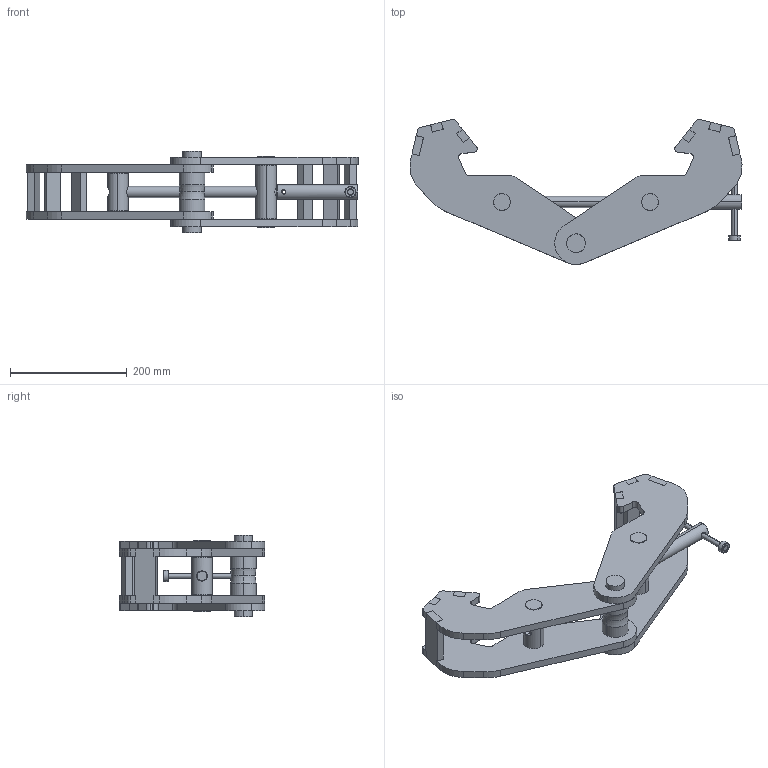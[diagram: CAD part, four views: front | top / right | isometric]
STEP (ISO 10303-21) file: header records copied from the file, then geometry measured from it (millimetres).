
FILE_DESCRIPTION (( 'STEP AP214' ), '1' );
FILE_NAME ('OZ10BCA.STEP', '2023-03-29T13:28:05', ( '' ), ( '' ), 'SwSTEP 2.0', 'SolidWorks 2021', '' );
FILE_SCHEMA (( 'AUTOMOTIVE_DESIGN' ));
Length unit declared in the file: inch
Products named in the file (15): OZ10BC-TR01; OZ10BC-WP01; OZ10BC-RE01; OZ10BC-HANDLE; OZ10BC-LP01; OZ10BC-WP02; OZ10BC-HR01; OZ10BC-PP02; OZ10BC-WP03; OZ10BC-PP01; OZ10BC-WELDMENT_Assembly; OZ10BC-HB01; OZ10BCA; OZ10BC-WP04; OZ10BC-SP01
Assembly tree (20 placements, depth 3):
  OZ10BCA
    OZ10BC-WELDMENT_Assembly
      OZ10BC-LP01
      OZ10BC-SP01  x4
      OZ10BC-WP01  x2
      OZ10BC-WP03
      OZ10BC-PP01
      OZ10BC-WP02  x2
      OZ10BC-WP04
      OZ10BC-PP02
    OZ10BC-HANDLE
      OZ10BC-HB01
      OZ10BC-HR01
      OZ10BC-RE01  x2
    OZ10BC-TR01
Bounding box: 568.71 x 248.58 x 138.94 mm (x, y, z)
Volume: 2259159.6 mm3; surface area: 447452.8 mm2
Topology: 18 solids, 18 shells, 368 faces, 920 edges, 596 vertices
Faces by surface type: plane 200, cylinder 110, cone 26, torus 16, bspline 16
Entity records: 22066 total; most frequent: CARTESIAN_POINT 16435, DIRECTION 1020, ORIENTED_EDGE 992, EDGE_CURVE 496, AXIS2_PLACEMENT_3D 367, VERTEX_POINT 316, LINE 286, VECTOR 286
